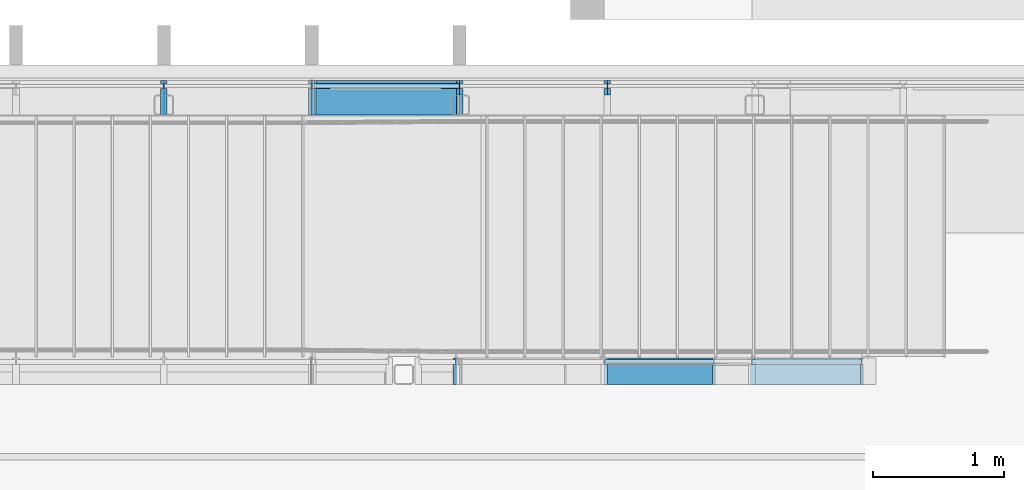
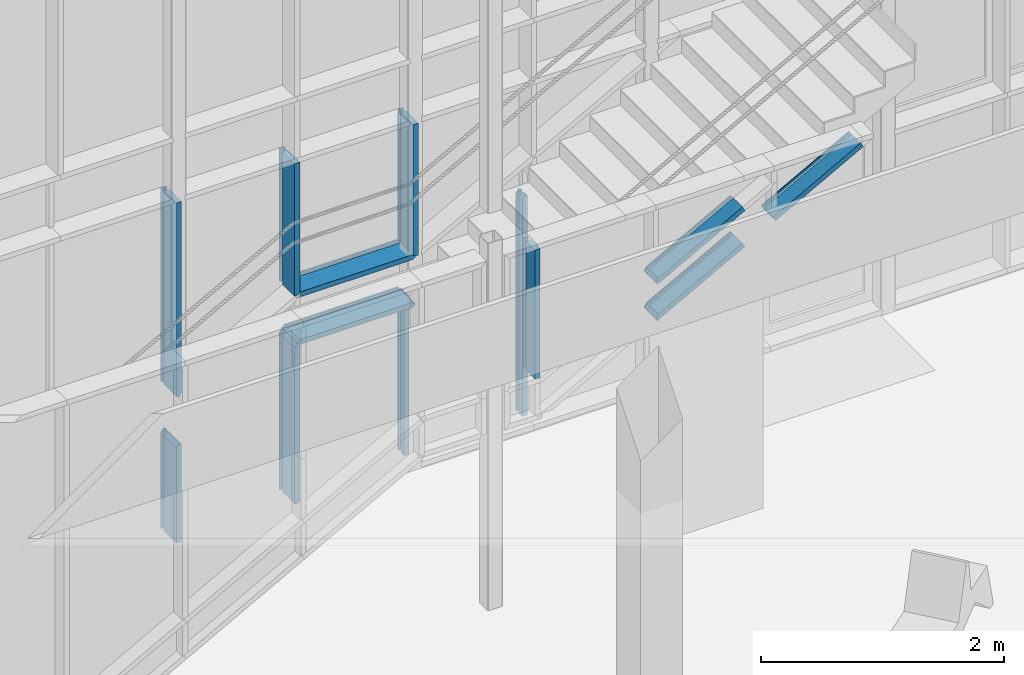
# One storey, part 36 of 301: 13 members, 2 elements without a shape of their own.
"""IFC2X3 building model written with IfcOpenShell, lengths in millimetres."""

from ifc_helpers import new_model, entity, si_unit, converted_unit, derived_unit, money_unit, direction, frame, origin_with_axes, place, context, subcontext, project, spatial, faceted_brep, material, type_object, element, aggregate, save


model = new_model("IFC2X3")

# Units and contexts
model_context = context("Model", 3, precision=0.01, world=origin_with_axes(), true_north=direction((0.0, 1.0)))
body_context = subcontext(model_context, "Body", "Model", "MODEL_VIEW")
ifc_project = project(units=[si_unit("LENGTHUNIT", "METRE", prefix="MILLI"), si_unit("AREAUNIT", "SQUARE_METRE"), si_unit("VOLUMEUNIT", "CUBIC_METRE"), converted_unit("PLANEANGLEUNIT", "DEGREE", entity("IfcPlaneAngleMeasure", 0.0174532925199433), si_unit("PLANEANGLEUNIT", "RADIAN"), dimensions=[0, 0, 0, 0, 0, 0, 0]), money_unit("EUR"), converted_unit("TIMEUNIT", "Year", entity("IfcTimeMeasure", 31557600.0), si_unit("TIMEUNIT", "SECOND"), dimensions=[0, 0, 1, 0, 0, 0, 0]), si_unit("MASSUNIT", "GRAM", prefix="KILO"), si_unit("THERMODYNAMICTEMPERATUREUNIT", "DEGREE_CELSIUS"), si_unit("LUMINOUSINTENSITYUNIT", "LUMEN"), si_unit("ENERGYUNIT", "JOULE", prefix="MEGA"), derived_unit("THERMALCONDUCTANCEUNIT", [(si_unit("POWERUNIT", "WATT"), 1), (si_unit("LENGTHUNIT", "METRE"), -1), (si_unit("THERMODYNAMICTEMPERATUREUNIT", "KELVIN"), -1)]), derived_unit("SPECIFICHEATCAPACITYUNIT", [(si_unit("ENERGYUNIT", "JOULE"), 1), (si_unit("MASSUNIT", "GRAM", prefix="KILO"), -1), (si_unit("THERMODYNAMICTEMPERATUREUNIT", "KELVIN"), -1)]), derived_unit("MASSDENSITYUNIT", [(si_unit("MASSUNIT", "GRAM", prefix="KILO"), 1), (si_unit("VOLUMEUNIT", "CUBIC_METRE"), -1)])], contexts=[model_context])

# Site, building, storey
site_placement = place(None, frame((0.0, 0.0, 8650.0), z_axis=(0.0, 0.0, 1.0), x_axis=(1.0, 0.0, 0.0)))
site = spatial("IfcSite", under=ifc_project, at=site_placement, Name="43301:001:0844", CompositionType="ELEMENT")
building_placement = place(site_placement, origin_with_axes())
building = spatial("IfcBuilding", under=site, at=building_placement, Name="Kuressaare Ametikooli tuulikute mehaanikute õppekorpus", CompositionType="ELEMENT")
storey_placement = place(building_placement, origin_with_axes())
storey = spatial("IfcBuildingStorey", under=building, at=storey_placement, Name="1.korrus", CompositionType="ELEMENT", Elevation=0.0)

# Curtain wall, members
curtain_wall_type = type_object("IfcCurtainWallType", Name="Curtain Wall Type", PredefinedType="NOTDEFINED")
curtain_wall_1_placement = place(storey_placement, frame((116704.6026822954, 28579.57374875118, 35.00000000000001), z_axis=(0.0, 0.0, 1.0), x_axis=(1.0, 0.0, 0.0)))
curtain_wall_1 = element("IfcCurtainWall", 1, at=curtain_wall_1_placement, inside=storey, type_object=curtain_wall_type, Name="KF-1.1")
ifc_material = material(Name="Aluminium")
member_type_1 = type_object("IfcMemberType", Name="Mullion Frame 50 x 260", PredefinedType="NOTDEFINED")
member_1_placement = place(curtain_wall_1_placement, frame((-5062.5, 0.0, 1635.327982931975), z_axis=(-1.0, 0.0, 0.0), x_axis=(0.0, 0.0, -1.0)))
member_1 = element("IfcMember", 2, at=member_1_placement, type_object=member_type_1, material=ifc_material, context=body_context, shape_type="Brep", body=[
    faceted_brep([(-4.999999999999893, 19.99999999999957, 1120.000000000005), (-4.999999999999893, -19.99999999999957, 1120.000000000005), (-24.99999999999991, -19.99999999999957, 1099.999999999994), (-24.99999999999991, -39.99999999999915, 1099.999999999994), (0.0, -39.99999999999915, 1125.0), (0.0, 219.9999999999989, 1125.0), (-24.99999999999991, 219.9999999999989, 1099.999999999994), (-24.99999999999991, 19.99999999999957, 1099.999999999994), (-4.999999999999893, 19.99999999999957, 4.999999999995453), (-4.999999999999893, -19.99999999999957, 4.999999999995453), (-24.99999999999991, -19.99999999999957, 25.00000000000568), (-24.99999999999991, -39.99999999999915, 25.00000000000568), (0.0, -39.99999999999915, 0.0), (24.99999999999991, -39.99999999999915, 25.00000000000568), (24.99999999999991, -39.99999999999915, 1099.999999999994), (24.99999999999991, -19.99999999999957, 1099.999999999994), (4.999999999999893, -19.99999999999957, 1120.000000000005), (4.999999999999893, 19.99999999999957, 1120.000000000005), (24.99999999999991, 19.99999999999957, 1099.999999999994), (24.99999999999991, 219.9999999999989, 1099.999999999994), (0.0, 219.9999999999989, 0.0), (-24.99999999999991, 219.9999999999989, 25.00000000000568), (24.99999999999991, 219.9999999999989, 25.00000000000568), (-24.99999999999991, 19.99999999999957, 25.00000000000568), (24.99999999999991, 19.99999999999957, 25.00000000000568), (4.999999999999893, 19.99999999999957, 4.999999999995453), (4.999999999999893, -19.99999999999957, 4.999999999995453), (24.99999999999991, -19.99999999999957, 25.00000000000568)], [[[0, 1, 2, 3, 4, 5, 6, 7]], [[0, 8, 9, 1]], [[1, 9, 10, 2]], [[10, 11, 3, 2]], [[12, 13, 14, 4, 3, 11]], [[5, 4, 14, 15, 16, 17, 18, 19]], [[20, 21, 6, 5, 19, 22]], [[7, 6, 21, 23]], [[7, 23, 8, 0]], [[9, 8, 23, 21, 20, 12, 11, 10]], [[13, 12, 20, 22, 24, 25, 26, 27]], [[27, 15, 14, 13]], [[15, 27, 26, 16]], [[17, 16, 26, 25]], [[18, 17, 25, 24]], [[18, 24, 22, 19]]]),
])
member_2_placement = place(curtain_wall_1_placement, frame((-6187.5, 0.0, 0.0), z_axis=(0.0, 0.0, 1.0), x_axis=(-1.0, 0.0, 0.0)))
member_2 = element("IfcMember", 3, at=member_2_placement, type_object=member_type_1, material=ifc_material, context=body_context, shape_type="Brep", body=[
    faceted_brep([(-4.999999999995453, 19.99999999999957, 1630.327982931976), (-4.999999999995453, -19.99999999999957, 1630.327982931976), (-25.00000000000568, -19.99999999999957, 1610.327982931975), (-25.00000000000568, -39.99999999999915, 1610.327982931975), (0.0, -39.99999999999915, 1635.327982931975), (0.0, 219.9999999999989, 1635.327982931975), (-25.00000000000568, 219.9999999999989, 1610.327982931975), (-25.00000000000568, 19.99999999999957, 1610.327982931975), (-4.999999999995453, 19.99999999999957, 24.99999999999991), (-4.999999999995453, -19.99999999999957, 24.99999999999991), (-25.00000000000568, -19.99999999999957, 25.00000000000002), (-25.00000000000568, -39.99999999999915, 25.00000000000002), (25.00000000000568, -39.99999999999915, 25.00000000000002), (25.00000000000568, -39.99999999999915, 1593.279599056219), (25.00000000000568, -19.99999999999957, 1593.279599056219), (4.999999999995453, -19.99999999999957, 1626.918306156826), (4.999999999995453, 19.99999999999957, 1626.918306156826), (25.00000000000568, 19.99999999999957, 1593.279599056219), (25.00000000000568, 219.9999999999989, 1593.279599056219), (25.00000000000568, 219.9999999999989, 25.00000000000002), (-25.00000000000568, 219.9999999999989, 25.00000000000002), (-25.00000000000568, 19.99999999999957, 25.00000000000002), (25.00000000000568, 19.99999999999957, 25.00000000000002), (4.999999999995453, 19.99999999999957, 24.99999999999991), (4.999999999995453, -19.99999999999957, 24.99999999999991), (25.00000000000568, -19.99999999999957, 25.00000000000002)], [[[0, 1, 2, 3, 4, 5, 6, 7]], [[0, 8, 9, 1]], [[1, 9, 10, 2]], [[10, 11, 3, 2]], [[11, 12, 13, 4, 3]], [[5, 4, 13, 14, 15, 16, 17, 18]], [[18, 19, 20, 6, 5]], [[7, 6, 20, 21]], [[7, 21, 8, 0]], [[9, 8, 21, 20, 19, 22, 23, 24, 25, 12, 11, 10]], [[25, 14, 13, 12]], [[14, 25, 24, 15]], [[16, 15, 24, 23]], [[17, 16, 23, 22]], [[17, 22, 19, 18]]]),
])
member_3_placement = place(curtain_wall_1_placement, frame((-5062.5, 0.0, 2113.548820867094), z_axis=(-1.0, 0.0, 0.0), x_axis=(0.0, 0.0, -1.0)))
member_3 = element("IfcMember", 4, at=member_3_placement, type_object=member_type_1, material=ifc_material, context=body_context, shape_type="Brep", body=[
    faceted_brep([(-4.999999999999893, 19.99999999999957, 1093.816775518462), (-4.999999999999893, -19.99999999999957, 1093.816775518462), (-24.99999999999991, -19.99999999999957, 1093.816775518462), (-24.99999999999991, -39.99999999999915, 1093.816775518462), (24.99999999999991, -39.99999999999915, 1093.816775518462), (24.99999999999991, -19.99999999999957, 1093.816775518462), (4.999999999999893, -19.99999999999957, 1093.816775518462), (4.999999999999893, 19.99999999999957, 1093.816775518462), (24.99999999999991, 19.99999999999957, 1093.816775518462), (24.99999999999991, 219.9999999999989, 1093.816775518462), (-24.99999999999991, 219.9999999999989, 1093.816775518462), (-24.99999999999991, 19.99999999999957, 1093.816775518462), (-4.999999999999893, 19.99999999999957, 4.999999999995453), (-4.999999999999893, -19.99999999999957, 4.999999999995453), (-24.99999999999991, -19.99999999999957, 25.00000000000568), (-24.99999999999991, -39.99999999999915, 25.00000000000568), (24.99999999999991, -39.99999999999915, 25.00000000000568), (0.0, -39.99999999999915, 0.0), (24.99999999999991, -19.99999999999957, 25.00000000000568), (4.999999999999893, -19.99999999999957, 4.999999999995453), (4.999999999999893, 19.99999999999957, 4.999999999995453), (24.99999999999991, 19.99999999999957, 25.00000000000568), (24.99999999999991, 219.9999999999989, 25.00000000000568), (-24.99999999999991, 219.9999999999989, 25.00000000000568), (0.0, 219.9999999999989, 0.0), (-24.99999999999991, 19.99999999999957, 25.00000000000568)], [[[0, 1, 2, 3, 4, 5, 6, 7, 8, 9, 10, 11]], [[0, 12, 13, 1]], [[1, 13, 14, 2]], [[14, 15, 3, 2]], [[16, 4, 3, 15, 17]], [[18, 5, 4, 16]], [[5, 18, 19, 6]], [[7, 6, 19, 20]], [[8, 7, 20, 21]], [[8, 21, 22, 9]], [[23, 10, 9, 22, 24]], [[11, 10, 23, 25]], [[11, 25, 12, 0]], [[13, 12, 25, 23, 24, 17, 15, 14]], [[16, 17, 24, 22, 21, 20, 19, 18]]]),
])
member_4_placement = place(curtain_wall_1_placement, frame((-7312.5, 0.0, 0.0), z_axis=(0.0, 0.0, 1.0), x_axis=(-1.0, 0.0, 0.0)))
member_4 = element("IfcMember", 5, at=member_4_placement, type_object=member_type_1, material=ifc_material, context=body_context, shape_type="Brep", body=[
    faceted_brep([(-4.999999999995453, 19.99999999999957, 1020.702738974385), (-4.999999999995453, -19.99999999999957, 1020.702738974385), (-25.00000000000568, -19.99999999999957, 1008.811675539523), (-25.00000000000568, -39.99999999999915, 1008.811675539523), (0.0, -39.99999999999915, 1023.6755048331), (0.0, 219.9999999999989, 1023.6755048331), (-25.00000000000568, 219.9999999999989, 1008.811675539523), (-25.00000000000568, 19.99999999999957, 1008.811675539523), (-4.999999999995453, 19.99999999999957, 25.00000000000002), (-4.999999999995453, -19.99999999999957, 25.00000000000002), (-25.00000000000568, -19.99999999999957, 25.00000000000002), (-25.00000000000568, -39.99999999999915, 25.00000000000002), (25.00000000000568, -39.99999999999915, 25.00000000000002), (25.00000000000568, -39.99999999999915, 981.6271209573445), (25.00000000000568, -19.99999999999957, 981.6271209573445), (4.999999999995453, -19.99999999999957, 1015.265828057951), (4.999999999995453, 19.99999999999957, 1015.265828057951), (25.00000000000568, 19.99999999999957, 981.6271209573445), (25.00000000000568, 219.9999999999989, 981.6271209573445), (25.00000000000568, 219.9999999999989, 25.00000000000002), (-25.00000000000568, 219.9999999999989, 25.00000000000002), (-25.00000000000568, 19.99999999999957, 25.00000000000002), (25.00000000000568, 19.99999999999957, 25.00000000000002), (4.999999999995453, 19.99999999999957, 25.00000000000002), (4.999999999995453, -19.99999999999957, 25.00000000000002), (25.00000000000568, -19.99999999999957, 25.00000000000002)], [[[0, 1, 2, 3, 4, 5, 6, 7]], [[0, 8, 9, 1]], [[1, 9, 10, 2]], [[10, 11, 3, 2]], [[11, 12, 13, 4, 3]], [[5, 4, 13, 14, 15, 16, 17, 18]], [[18, 19, 20, 6, 5]], [[7, 6, 20, 21]], [[7, 21, 8, 0]], [[9, 8, 21, 20, 19, 22, 23, 24, 25, 12, 11, 10]], [[25, 14, 13, 12]], [[14, 25, 24, 15]], [[16, 15, 24, 23]], [[17, 16, 23, 22]], [[17, 22, 19, 18]]]),
])
member_5_placement = place(curtain_wall_1_placement, frame((-7312.5, 0.0, 1483.398332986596), z_axis=(0.0, 0.0, 1.0), x_axis=(-1.0, 0.0, 0.0)))
member_5 = element("IfcMember", 6, at=member_5_placement, type_object=member_type_1, material=ifc_material, context=body_context, shape_type="Brep", body=[
    faceted_brep([(-4.999999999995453, 19.99999999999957, 1961.601675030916), (-4.999999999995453, -19.99999999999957, 1961.601675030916), (-25.00000000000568, -19.99999999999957, 1961.601675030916), (-25.00000000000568, -39.99999999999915, 1961.601675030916), (25.00000000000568, -39.99999999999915, 1961.601675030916), (25.00000000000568, -19.99999999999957, 1961.601675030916), (4.999999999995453, -19.99999999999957, 1961.601675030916), (4.999999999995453, 19.99999999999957, 1961.601675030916), (25.00000000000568, 19.99999999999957, 1961.601675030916), (25.00000000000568, 219.9999999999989, 1961.601675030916), (-25.00000000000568, 219.9999999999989, 1961.601675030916), (-25.00000000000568, 19.99999999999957, 1961.601675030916), (-4.999999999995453, 19.99999999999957, 8.409676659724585), (-4.999999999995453, -19.99999999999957, 8.409676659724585), (-25.00000000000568, -19.99999999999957, 42.04838329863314), (-25.00000000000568, -39.99999999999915, 42.04838329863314), (25.00000000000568, -39.99999999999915, 14.8638297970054), (0.0, -39.99999999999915, 0.0), (25.00000000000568, -19.99999999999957, 14.8638297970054), (4.999999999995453, -19.99999999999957, 2.972765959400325), (4.999999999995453, 19.99999999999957, 2.972765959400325), (25.00000000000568, 19.99999999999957, 14.8638297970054), (25.00000000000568, 219.9999999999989, 14.8638297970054), (-25.00000000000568, 219.9999999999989, 42.04838329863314), (0.0, 219.9999999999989, 0.0), (-25.00000000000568, 19.99999999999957, 42.04838329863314)], [[[0, 1, 2, 3, 4, 5, 6, 7, 8, 9, 10, 11]], [[0, 12, 13, 1]], [[1, 13, 14, 2]], [[14, 15, 3, 2]], [[16, 4, 3, 15, 17]], [[18, 5, 4, 16]], [[5, 18, 19, 6]], [[7, 6, 19, 20]], [[8, 7, 20, 21]], [[8, 21, 22, 9]], [[23, 10, 9, 22, 24]], [[11, 10, 23, 25]], [[11, 25, 12, 0]], [[13, 12, 25, 23, 24, 17, 15, 14]], [[16, 17, 24, 22, 21, 20, 19, 18]]]),
])
member_6_placement = place(curtain_wall_1_placement, frame((-6187.5, 0.0, 2113.548820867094), z_axis=(0.0, 0.0, 1.0), x_axis=(-1.0, 0.0, 0.0)))
member_6 = element("IfcMember", 7, at=member_6_placement, type_object=member_type_1, material=ifc_material, context=body_context, shape_type="Brep", body=[
    faceted_brep([(-4.999999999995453, 19.99999999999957, 1331.451187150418), (-4.999999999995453, -19.99999999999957, 1331.451187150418), (-25.00000000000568, -19.99999999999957, 1331.451187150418), (-25.00000000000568, -39.99999999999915, 1331.451187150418), (25.00000000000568, -39.99999999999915, 1331.451187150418), (25.00000000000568, -19.99999999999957, 1331.451187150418), (4.999999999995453, -19.99999999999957, 1331.451187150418), (4.999999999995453, 19.99999999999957, 1331.451187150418), (25.00000000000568, 19.99999999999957, 1331.451187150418), (25.00000000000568, 219.9999999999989, 1331.451187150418), (-25.00000000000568, 219.9999999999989, 1331.451187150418), (-25.00000000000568, 19.99999999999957, 1331.451187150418), (-4.999999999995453, 19.99999999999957, 4.999999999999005), (-4.999999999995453, -19.99999999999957, 4.999999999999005), (-25.00000000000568, -19.99999999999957, 24.99999999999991), (-25.00000000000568, -39.99999999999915, 24.99999999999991), (25.00000000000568, -39.99999999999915, 0.0), (0.0, -39.99999999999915, 0.0), (25.00000000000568, -19.99999999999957, 0.0), (4.999999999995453, -19.99999999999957, 0.0), (4.999999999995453, 19.99999999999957, 0.0), (25.00000000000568, 19.99999999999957, 0.0), (25.00000000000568, 219.9999999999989, 0.0), (0.0, 219.9999999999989, 0.0), (-25.00000000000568, 219.9999999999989, 24.99999999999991), (-25.00000000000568, 19.99999999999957, 24.99999999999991)], [[[0, 1, 2, 3, 4, 5, 6, 7, 8, 9, 10, 11]], [[0, 12, 13, 1]], [[1, 13, 14, 2]], [[14, 15, 3, 2]], [[16, 4, 3, 15, 17]], [[18, 5, 4, 16]], [[5, 18, 19, 6]], [[7, 6, 19, 20]], [[8, 7, 20, 21]], [[8, 21, 22, 9]], [[10, 9, 22, 23, 24]], [[11, 10, 24, 25]], [[11, 25, 12, 0]], [[13, 12, 25, 24, 23, 17, 15, 14]], [[16, 17, 23, 22, 21, 20, 19, 18]]]),
])
member_7_placement = place(curtain_wall_1_placement, frame((-5062.5, 0.0, 2113.548820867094), z_axis=(0.0, 0.0, 1.0), x_axis=(-1.0, 0.0, 0.0)))
member_7 = element("IfcMember", 8, at=member_7_placement, type_object=member_type_1, material=ifc_material, context=body_context, shape_type="Brep", body=[
    faceted_brep([(-4.999999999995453, 19.99999999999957, 1331.451187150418), (-4.999999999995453, -19.99999999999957, 1331.451187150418), (-25.00000000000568, -19.99999999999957, 1331.451187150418), (-25.00000000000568, -39.99999999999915, 1331.451187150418), (25.00000000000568, -39.99999999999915, 1331.451187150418), (25.00000000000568, -19.99999999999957, 1331.451187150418), (4.999999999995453, -19.99999999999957, 1331.451187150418), (4.999999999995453, 19.99999999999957, 1331.451187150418), (25.00000000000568, 19.99999999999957, 1331.451187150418), (25.00000000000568, 219.9999999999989, 1331.451187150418), (-25.00000000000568, 219.9999999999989, 1331.451187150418), (-25.00000000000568, 19.99999999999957, 1331.451187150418), (-4.999999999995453, 19.99999999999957, 0.0), (-4.999999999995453, -19.99999999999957, 0.0), (-25.00000000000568, -19.99999999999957, 0.0), (-25.00000000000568, -39.99999999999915, 0.0), (0.0, -39.99999999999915, 0.0), (25.00000000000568, -39.99999999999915, 24.99999999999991), (25.00000000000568, -19.99999999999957, 24.99999999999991), (4.999999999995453, -19.99999999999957, 4.999999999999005), (4.999999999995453, 19.99999999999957, 4.999999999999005), (25.00000000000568, 19.99999999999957, 24.99999999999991), (25.00000000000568, 219.9999999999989, 24.99999999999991), (-25.00000000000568, 219.9999999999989, 0.0), (0.0, 219.9999999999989, 0.0), (-25.00000000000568, 19.99999999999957, 0.0)], [[[0, 1, 2, 3, 4, 5, 6, 7, 8, 9, 10, 11]], [[0, 12, 13, 1]], [[1, 13, 14, 2]], [[14, 15, 3, 2]], [[4, 3, 15, 16, 17]], [[18, 5, 4, 17]], [[5, 18, 19, 6]], [[7, 6, 19, 20]], [[8, 7, 20, 21]], [[8, 21, 22, 9]], [[23, 10, 9, 22, 24]], [[11, 10, 23, 25]], [[11, 25, 12, 0]], [[13, 12, 25, 23, 24, 16, 15, 14]], [[17, 16, 24, 22, 21, 20, 19, 18]]]),
])
member_type_2 = type_object("IfcMemberType", Name="50 x 110", PredefinedType="NOTDEFINED")
member_8_placement = place(curtain_wall_1_placement, frame((-3937.5, 0.0, 0.0), z_axis=(0.0, 0.0, 1.0), x_axis=(-1.0, 0.0, 0.0)))
member_8 = element("IfcMember", 9, at=member_8_placement, type_object=member_type_2, material=ifc_material, context=body_context, shape_type="Brep", body=[
    faceted_brep([(-4.999999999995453, 19.99999999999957, 2243.912337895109), (-4.999999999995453, -19.99999999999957, 2243.912337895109), (-25.00000000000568, -19.99999999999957, 2232.020390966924), (-25.00000000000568, -39.99999999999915, 2232.020390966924), (0.0, -39.99999999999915, 2246.885324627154), (0.0, 70.00000000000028, 2246.885324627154), (-25.00000000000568, 70.00000000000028, 2232.020390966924), (-25.00000000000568, 19.99999999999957, 2232.020390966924), (-4.999999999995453, 19.99999999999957, 24.99999999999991), (-4.999999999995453, -19.99999999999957, 24.99999999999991), (-25.00000000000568, -19.99999999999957, 24.99999999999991), (-25.00000000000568, -39.99999999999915, 24.99999999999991), (25.00000000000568, -39.99999999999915, 24.99999999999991), (25.00000000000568, -39.99999999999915, 2204.840064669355), (25.00000000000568, -19.99999999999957, 2204.840064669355), (4.999999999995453, -19.99999999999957, 2238.476272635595), (4.999999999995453, 19.99999999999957, 2238.476272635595), (25.00000000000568, 19.99999999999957, 2204.840064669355), (25.00000000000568, 70.00000000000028, 2204.840064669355), (25.00000000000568, 70.00000000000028, 24.99999999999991), (-25.00000000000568, 70.00000000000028, 24.99999999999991), (-25.00000000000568, 19.99999999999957, 24.99999999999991), (25.00000000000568, 19.99999999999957, 24.99999999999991), (4.999999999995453, 19.99999999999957, 24.99999999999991), (4.999999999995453, -19.99999999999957, 24.99999999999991), (25.00000000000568, -19.99999999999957, 24.99999999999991)], [[[0, 1, 2, 3, 4, 5, 6, 7]], [[0, 8, 9, 1]], [[1, 9, 10, 2]], [[10, 11, 3, 2]], [[11, 12, 13, 4, 3]], [[5, 4, 13, 14, 15, 16, 17, 18]], [[18, 19, 20, 6, 5]], [[7, 6, 20, 21]], [[7, 21, 8, 0]], [[9, 8, 21, 20, 19, 22, 23, 24, 25, 12, 11, 10]], [[25, 14, 13, 12]], [[14, 25, 24, 15]], [[16, 15, 24, 23]], [[17, 16, 23, 22]], [[17, 22, 19, 18]]]),
])
member_9_placement = place(curtain_wall_1_placement, frame((-5062.5, 0.0, 0.0), z_axis=(0.0, 0.0, 1.0), x_axis=(-1.0, 0.0, 0.0)))
member_9 = element("IfcMember", 10, at=member_9_placement, type_object=member_type_2, material=ifc_material, context=body_context, shape_type="Brep", body=[
    faceted_brep([(-4.999999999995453, 19.99999999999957, 1632.35499619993), (-4.999999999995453, -19.99999999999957, 1632.35499619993), (-25.00000000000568, -19.99999999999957, 1620.463049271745), (-25.00000000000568, -39.99999999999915, 1620.463049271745), (0.0, -39.99999999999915, 1635.327982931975), (0.0, 70.00000000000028, 1635.327982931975), (-25.00000000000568, 70.00000000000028, 1620.463049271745), (-25.00000000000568, 19.99999999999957, 1620.463049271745), (-4.999999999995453, 19.99999999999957, 24.99999999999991), (-4.999999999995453, -19.99999999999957, 24.99999999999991), (-25.00000000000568, -19.99999999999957, 25.00000000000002), (-25.00000000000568, -39.99999999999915, 25.00000000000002), (25.00000000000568, -39.99999999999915, 25.00000000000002), (25.00000000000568, -39.99999999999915, 1610.327982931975), (25.00000000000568, -19.99999999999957, 1610.327982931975), (4.999999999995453, -19.99999999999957, 1630.327982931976), (4.999999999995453, 19.99999999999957, 1630.327982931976), (25.00000000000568, 19.99999999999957, 1610.327982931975), (25.00000000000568, 70.00000000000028, 1610.327982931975), (25.00000000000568, 70.00000000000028, 25.00000000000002), (-25.00000000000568, 70.00000000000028, 25.00000000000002), (-25.00000000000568, 19.99999999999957, 25.00000000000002), (25.00000000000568, 19.99999999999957, 25.00000000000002), (4.999999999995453, 19.99999999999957, 24.99999999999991), (4.999999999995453, -19.99999999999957, 24.99999999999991), (25.00000000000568, -19.99999999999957, 25.00000000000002)], [[[0, 1, 2, 3, 4, 5, 6, 7]], [[0, 8, 9, 1]], [[1, 9, 10, 2]], [[10, 11, 3, 2]], [[11, 12, 13, 4, 3]], [[5, 4, 13, 14, 15, 16, 17, 18]], [[18, 19, 20, 6, 5]], [[7, 6, 20, 21]], [[7, 21, 8, 0]], [[9, 8, 21, 20, 19, 22, 23, 24, 25, 12, 11, 10]], [[25, 14, 13, 12]], [[14, 25, 24, 15]], [[16, 15, 24, 23]], [[17, 16, 23, 22]], [[17, 22, 19, 18]]]),
])
aggregate(curtain_wall_1, [member_8, member_9, member_1, member_2, member_3, member_4, member_5, member_6, member_7])

curtain_wall_2_placement = place(storey_placement, frame((111472.5258007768, 26479.57374875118, 1595.348937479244), z_axis=(0.0, 0.0, 1.0), x_axis=(1.0, 0.0, 0.0)))
curtain_wall_2 = element("IfcCurtainWall", 11, at=curtain_wall_2_placement, inside=storey, type_object=curtain_wall_type, Name="SKF-1.2,EI60")
member_type_3 = type_object("IfcMemberType", Name="Mullion Frame 50 x 200", PredefinedType="NOTDEFINED")
member_10_placement = place(curtain_wall_2_placement, frame((3230.423349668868, 0.0, 1844.842274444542), z_axis=(-0.8785182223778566, 0.0, -0.477708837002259), x_axis=(0.477708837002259, 0.0, -0.8785182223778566)))
member_10 = element("IfcMember", 12, at=member_10_placement, type_object=member_type_3, material=ifc_material, context=body_context, shape_type="Brep", body=[
    faceted_brep([(-5.000000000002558, 19.99999999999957, 951.5155998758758), (-5.000000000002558, -19.99999999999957, 951.5155998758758), (-24.99999999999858, -19.99999999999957, 951.51559987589), (-24.99999999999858, -30.00000000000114, 951.51559987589), (25.00000000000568, -30.00000000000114, 951.5155998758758), (25.00000000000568, -19.99999999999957, 951.5155998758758), (4.999999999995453, -19.99999999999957, 951.51559987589), (4.999999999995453, 19.99999999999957, 951.51559987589), (25.00000000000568, 19.99999999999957, 951.5155998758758), (25.00000000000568, 170.0000000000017, 951.5155998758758), (-24.99999999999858, 170.0000000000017, 951.51559987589), (-24.99999999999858, 19.99999999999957, 951.51559987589), (-5.000000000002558, 19.99999999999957, -2.8047224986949e-05), (-5.000000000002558, -19.99999999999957, -2.8047224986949e-05), (-24.99999999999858, -19.99999999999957, -2.804721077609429e-05), (-24.99999999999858, -30.00000000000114, -2.804721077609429e-05), (25.00000000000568, -30.00000000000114, -2.8047224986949e-05), (25.00000000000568, -19.99999999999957, -2.8047224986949e-05), (5.000000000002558, -19.99999999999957, -2.8047224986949e-05), (5.000000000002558, 19.99999999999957, -2.8047224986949e-05), (25.00000000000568, 19.99999999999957, -2.8047224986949e-05), (25.00000000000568, 170.0000000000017, -2.8047224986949e-05), (-24.99999999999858, 170.0000000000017, -2.804721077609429e-05), (-24.99999999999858, 19.99999999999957, -2.804721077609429e-05)], [[[0, 1, 2, 3, 4, 5, 6, 7, 8, 9, 10, 11]], [[0, 12, 13, 1]], [[1, 13, 14, 2]], [[14, 15, 3, 2]], [[3, 15, 16, 4]], [[17, 5, 4, 16]], [[5, 17, 18, 6]], [[7, 6, 18, 19]], [[8, 7, 19, 20]], [[8, 20, 21, 9]], [[9, 21, 22, 10]], [[11, 10, 22, 23]], [[11, 23, 12, 0]], [[13, 12, 23, 22, 21, 20, 19, 18, 17, 16, 15, 14]]]),
])
member_11_placement = place(curtain_wall_2_placement, frame((2105.423349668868, 0.0, 1233.104871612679), z_axis=(-0.8785182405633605, 0.0, -0.4777088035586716), x_axis=(0.4777088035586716, 0.0, -0.8785182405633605)))
member_11 = element("IfcMember", 13, at=member_11_placement, type_object=member_type_3, material=ifc_material, context=body_context, shape_type="Brep", body=[
    faceted_brep([(-5.000000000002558, 19.99999999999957, 943.0175605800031), (-5.000000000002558, -19.99999999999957, 943.0175605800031), (-24.99999999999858, -19.99999999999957, 909.3766245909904), (-24.99999999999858, -30.00000000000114, 909.3766245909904), (0.0, -30.00000000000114, 951.4277945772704), (0.0, 170.0000000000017, 951.4277945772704), (-24.99999999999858, 170.0000000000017, 909.3766245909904), (-24.99999999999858, 19.99999999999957, 909.3766245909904), (-5.000000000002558, 19.99999999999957, -2.020712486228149e-06), (-5.000000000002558, -19.99999999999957, -2.020712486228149e-06), (-25.00000000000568, -19.99999999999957, -2.020712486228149e-06), (-25.00000000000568, -30.00000000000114, -2.020712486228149e-06), (24.99999999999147, -30.00000000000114, -2.020726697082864e-06), (24.99999999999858, -30.00000000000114, 951.4277945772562), (24.99999999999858, -19.99999999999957, 951.4277945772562), (4.999999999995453, -19.99999999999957, 951.4277945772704), (4.999999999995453, 19.99999999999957, 951.4277945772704), (24.99999999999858, 19.99999999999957, 951.4277945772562), (24.99999999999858, 170.0000000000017, 951.4277945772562), (24.99999999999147, 170.0000000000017, -2.020726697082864e-06), (-25.00000000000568, 170.0000000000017, -2.020712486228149e-06), (-25.00000000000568, 19.99999999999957, -2.020712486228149e-06), (24.99999999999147, 19.99999999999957, -2.020726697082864e-06), (4.999999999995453, 19.99999999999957, -2.020712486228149e-06), (4.999999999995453, -19.99999999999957, -2.020712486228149e-06), (24.99999999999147, -19.99999999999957, -2.020726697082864e-06)], [[[0, 1, 2, 3, 4, 5, 6, 7]], [[0, 8, 9, 1]], [[1, 9, 10, 2]], [[10, 11, 3, 2]], [[11, 12, 13, 4, 3]], [[5, 4, 13, 14, 15, 16, 17, 18]], [[18, 19, 20, 6, 5]], [[7, 6, 20, 21]], [[7, 21, 8, 0]], [[9, 8, 21, 20, 19, 22, 23, 24, 25, 12, 11, 10]], [[25, 14, 13, 12]], [[14, 25, 24, 15]], [[16, 15, 24, 23]], [[17, 16, 23, 22]], [[17, 22, 19, 18]]]),
])
member_12_placement = place(curtain_wall_2_placement, frame((2105.423349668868, 0.0, 1595.570243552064), z_axis=(-0.8785193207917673, 0.0, -0.4777068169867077), x_axis=(0.4777068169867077, 0.0, -0.8785193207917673)))
member_12 = element("IfcMember", 14, at=member_12_placement, type_object=member_type_3, material=ifc_material, context=body_context, shape_type="Brep", body=[
    faceted_brep([(-4.999999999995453, 19.99999999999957, 943.0164143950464), (-4.999999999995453, -19.99999999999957, 943.0164143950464), (-24.99999999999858, -19.99999999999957, 909.375564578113), (-24.99999999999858, -30.00000000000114, 909.375564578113), (0.0, -30.00000000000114, 951.4266268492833), (0.0, 170.0000000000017, 951.4266268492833), (-24.99999999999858, 170.0000000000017, 909.375564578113), (-24.99999999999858, 19.99999999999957, 909.375564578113), (-4.999999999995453, 19.99999999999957, -7.095579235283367e-06), (-4.999999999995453, -19.99999999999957, -7.095579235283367e-06), (-24.99999999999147, -19.99999999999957, -7.095593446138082e-06), (-24.99999999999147, -30.00000000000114, -7.095593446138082e-06), (25.00000000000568, -30.00000000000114, -7.095579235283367e-06), (25.00000000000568, -30.00000000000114, 936.5637441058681), (25.00000000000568, -19.99999999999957, 936.5637441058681), (5.000000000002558, -19.99999999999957, 948.4540503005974), (5.000000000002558, 19.99999999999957, 948.4540503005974), (25.00000000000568, 19.99999999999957, 936.5637441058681), (25.00000000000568, 170.0000000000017, 936.5637441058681), (25.00000000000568, 170.0000000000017, -7.095579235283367e-06), (-24.99999999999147, 170.0000000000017, -7.095593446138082e-06), (-24.99999999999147, 19.99999999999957, -7.095593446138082e-06), (25.00000000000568, 19.99999999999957, -7.095579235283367e-06), (5.000000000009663, 19.99999999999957, -7.095579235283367e-06), (5.000000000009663, -19.99999999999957, -7.095579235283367e-06), (25.00000000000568, -19.99999999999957, -7.095579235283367e-06)], [[[0, 1, 2, 3, 4, 5, 6, 7]], [[0, 8, 9, 1]], [[1, 9, 10, 2]], [[10, 11, 3, 2]], [[11, 12, 13, 4, 3]], [[5, 4, 13, 14, 15, 16, 17, 18]], [[18, 19, 20, 6, 5]], [[7, 6, 20, 21]], [[7, 21, 8, 0]], [[9, 8, 21, 20, 19, 22, 23, 24, 25, 12, 11, 10]], [[25, 14, 13, 12]], [[14, 25, 24, 15]], [[16, 15, 24, 23]], [[17, 16, 23, 22]], [[17, 22, 19, 18]]]),
])
member_13_placement = place(curtain_wall_2_placement, frame((144.5766441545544, 0.0, 552.4643932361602), z_axis=(9.167229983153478e-09, 0.0, 1.0), x_axis=(-1.0, 0.0, 9.167229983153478e-09)))
member_13 = element("IfcMember", 15, at=member_13_placement, type_object=member_type_3, material=ifc_material, context=body_context, shape_type="Brep", body=[
    faceted_brep([(-4.999987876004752, 19.99999999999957, 1322.535643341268), (-4.999987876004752, -19.99999999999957, 1322.535643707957), (-24.99998787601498, -19.99999999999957, 1322.535643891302), (-24.99998787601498, -30.00000000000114, 1322.535643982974), (25.00001212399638, -30.00000000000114, 1322.535643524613), (25.00001212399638, -19.99999999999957, 1322.535643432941), (5.000012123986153, -19.99999999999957, 1322.535643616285), (5.000012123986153, 19.99999999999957, 1322.535643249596), (25.00001212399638, 19.99999999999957, 1322.535643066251), (25.00001212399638, 170.0000000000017, 1322.535641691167), (-24.99998787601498, 170.0000000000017, 1322.535642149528), (-24.99998787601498, 19.99999999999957, 1322.535643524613), (-4.999999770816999, 19.99999999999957, 25.00000022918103), (-4.999999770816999, -19.99999999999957, 24.99999986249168), (-24.99999977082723, -19.99999999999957, 25.00000004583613), (-24.99999977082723, -30.00000000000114, 24.99999995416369), (25.00000022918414, -30.00000000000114, 24.99999949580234), (25.00000022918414, -19.99999999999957, 24.99999958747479), (5.000000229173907, -19.99999999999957, 24.99999977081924), (5.000000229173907, 19.99999999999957, 25.00000013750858), (25.00000022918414, 19.99999999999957, 24.99999995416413), (25.00000022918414, 170.0000000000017, 25.00000132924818), (-24.99999977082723, 170.0000000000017, 25.00000178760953), (-24.99999977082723, 19.99999999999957, 25.00000041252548)], [[[0, 1, 2, 3, 4, 5, 6, 7, 8, 9, 10, 11]], [[0, 12, 13, 1]], [[1, 13, 14, 2]], [[14, 15, 3, 2]], [[4, 3, 15, 16]], [[17, 5, 4, 16]], [[5, 17, 18, 6]], [[7, 6, 18, 19]], [[8, 7, 19, 20]], [[8, 20, 21, 9]], [[10, 9, 21, 22]], [[11, 10, 22, 23]], [[11, 23, 12, 0]], [[13, 12, 23, 22, 21, 20, 19, 18, 17, 16, 15, 14]]]),
])
aggregate(curtain_wall_2, [member_10, member_11, member_12, member_13])

save(model, "model.ifc")
